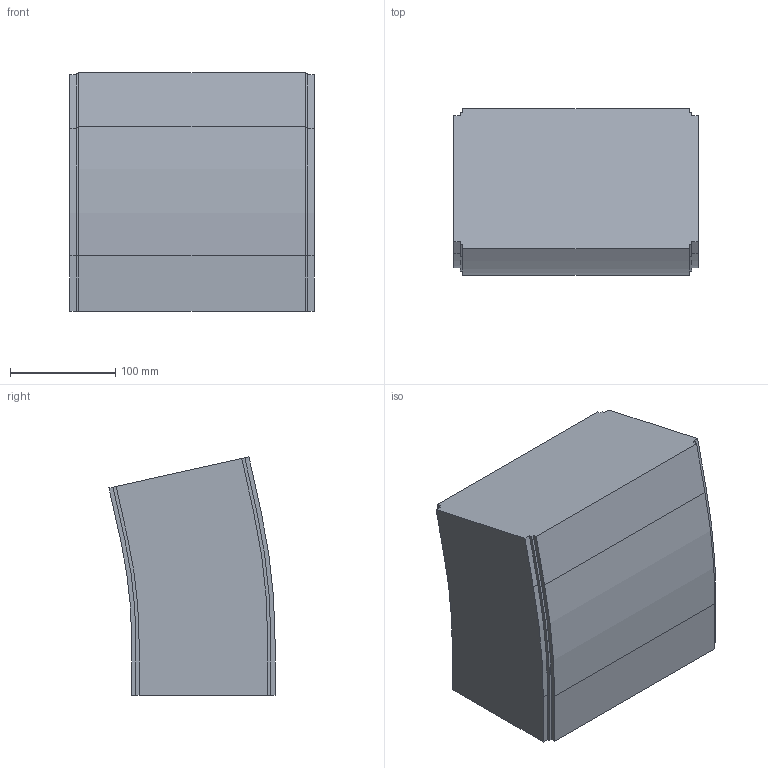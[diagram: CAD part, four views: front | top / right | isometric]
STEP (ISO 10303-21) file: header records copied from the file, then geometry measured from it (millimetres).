
FILE_DESCRIPTION (( 'STEP AP214' ), '1' );
FILE_NAME ('FS-MTC2-150-INOX verticaalbocht.230 12,5°.STEP', '2017-02-08T12:41:53', ( '' ), ( '' ), 'SwSTEP 2.0', 'SolidWorks 2016', '' );
FILE_SCHEMA (( 'AUTOMOTIVE_DESIGN' ));
Length unit declared in the file: millimetre
Products named in the file (1): FS-MTC2-150-INOX verticaalbocht.230 12,5°
Bounding box: 232.5 x 158.1 x 226.75 mm (x, y, z)
Volume: 6750349.9 mm3; surface area: 221056.2 mm2
Topology: 1 solids, 1 shells, 42 faces, 120 edges, 80 vertices
Faces by surface type: plane 32, cylinder 10
Entity records: 1398 total; most frequent: CARTESIAN_POINT 243, ORIENTED_EDGE 240, DIRECTION 226, EDGE_CURVE 120, LINE 100, VECTOR 100, VERTEX_POINT 80, AXIS2_PLACEMENT_3D 63
